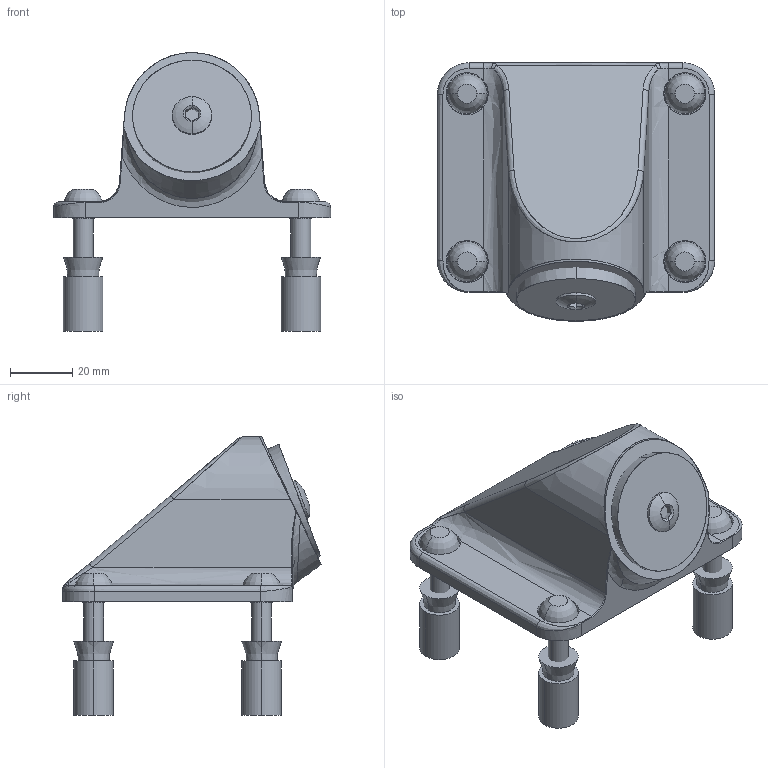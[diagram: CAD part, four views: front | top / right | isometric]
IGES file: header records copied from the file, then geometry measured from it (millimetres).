
Start section:  PTC IGES file: 621_fitting_sw0001.igs
Global section: file name: 621_fitting_sw0001.igs; native system: Pro/ENGINEER by Parametric Technology Corporation; preprocessor: 2010230; author: jrodriguez; organization: Unknown; date: 20110830.115443; units: inch
Bounding box: 88.9 x 82.9 x 89.41 mm (x, y, z)
Surface area: 30552.5 mm2 (no closed solid volume)
Topology: 0 solids, 0 shells, 146 faces, 916 edges, 1168 vertices
Faces by surface type: revolution 80, bspline 62, extrusion 4
